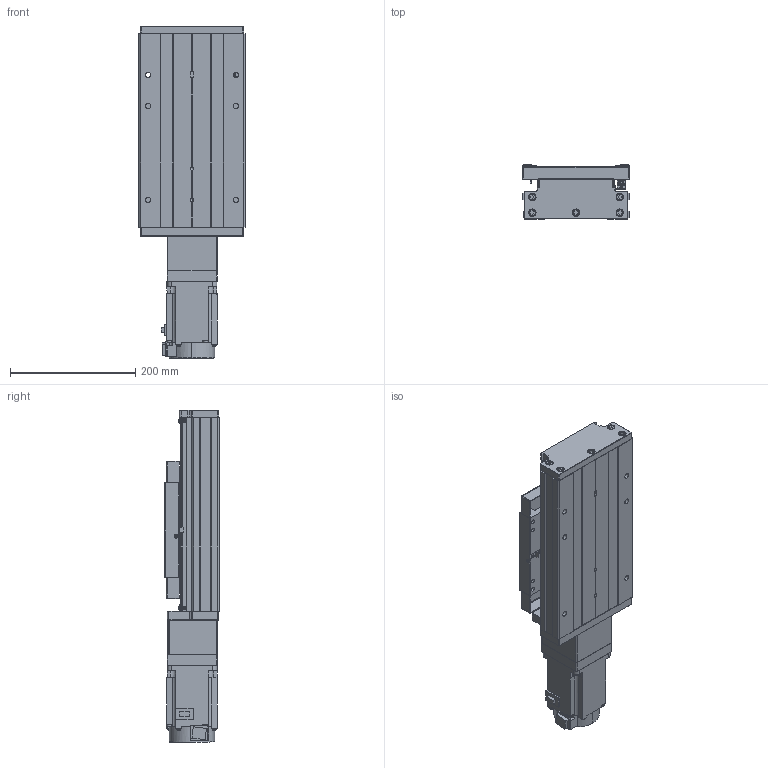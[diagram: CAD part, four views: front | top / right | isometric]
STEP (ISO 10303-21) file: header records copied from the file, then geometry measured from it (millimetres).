
FILE_DESCRIPTION (( 'STEP AP203' ), '1' );
FILE_NAME ('GTH17-50-BC-M75-C4.step', '2023-06-30T11:21:52', ( '微软用户' ), ( '微软中国' ), 'SwSTEP 2.0', 'SolidWorks 2020', '' );
FILE_SCHEMA (( 'CONFIG_CONTROL_DESIGN' ));
Length unit declared in the file: millimetre
Products named in the file (20): HG-KN73J-S100; CTHA60-017; GBT 70.2-M3¡Á5_M3¡Á6; GTH17-50-BC-M75-C4; GTH17-001_50; EE_SX911P_R; す晦芛蹟隊 M3℅5; GTH17-002_GTH17-002; CTHA60-016; GBT 70.3-M3℅8; GBT 70.1-M3℅5; GTH17-006-2_M75; GTH17-004; GBT77-2000 M3×3; GTH17-013; GTH17-005; GBT 70.1-M6¡Á20_M6¡Á20; GTH17-027-1; GB1155-6X6; GTH17-031
Assembly tree (57 placements, depth 2):
  GTH17-50-BC-M75-C4
    GTH17-001_50
    GTH17-002_GTH17-002
    GTH17-004
    GTH17-005
    GB1155-6X6  x2
    CTHA60-017  x3
    EE_SX911P_R  x3
    CTHA60-016  x2
    GBT 70.1-M3℅5  x6
    GBT77-2000 M3×3  x6
    GBT 70.1-M6¡Á20_M6¡Á20  x10
    GTH17-031
    GBT 70.2-M3¡Á5_M3¡Á6  x8
    す晦芛蹟隊 M3℅5  x6
    GBT 70.3-M3℅8  x2
    GTH17-006-2_M75
    GTH17-013
    GTH17-027-1
    HG-KN73J-S100
Bounding box: 171 x 87 x 531.2 mm (x, y, z)
Volume: 4113490.6 mm3; surface area: 632763.4 mm2
Topology: 60 solids, 60 shells, 2384 faces, 5701 edges, 3531 vertices
Faces by surface type: plane 1299, cylinder 638, cone 287, torus 120, sphere 20, bspline 20
Entity records: 44221 total; most frequent: CARTESIAN_POINT 10277, DIRECTION 6357, ORIENTED_EDGE 6318, EDGE_CURVE 3159, AXIS2_PLACEMENT_3D 2145, LINE 2067, VECTOR 2067, VERTEX_POINT 1999
